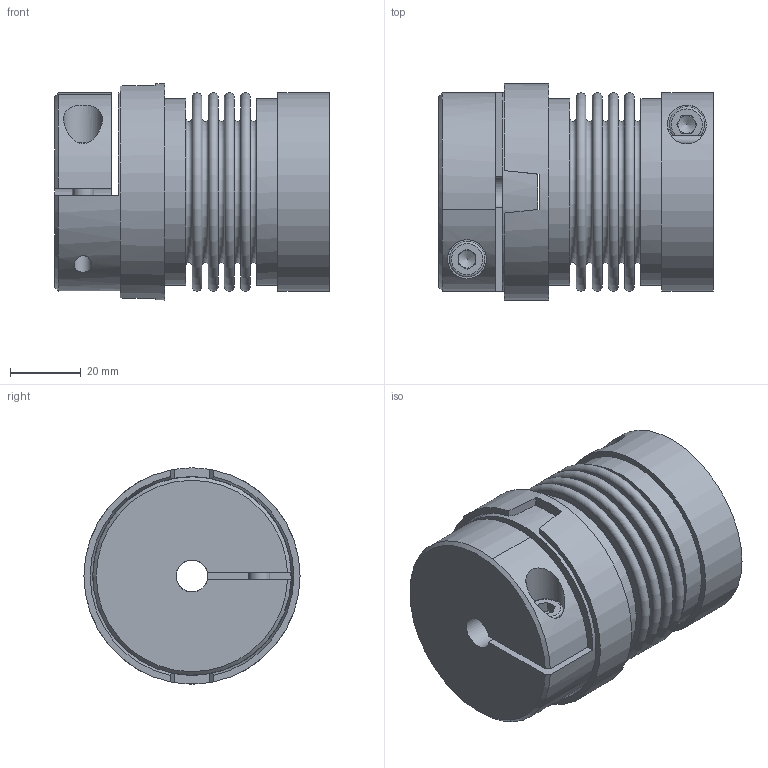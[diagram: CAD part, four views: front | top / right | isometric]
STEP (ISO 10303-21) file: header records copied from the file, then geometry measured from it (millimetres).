
FILE_DESCRIPTION( ( 'Unknown' ), '1' );
FILE_NAME( 'F:/JAKOB-STEP+IGES-Dateien/STEP-Dateien/KPP/KPP 20.stp', 'Unknown', ( 'Unknown' ), ( 'Unknown' ), 'PSStep 10.1', 'Unknown', ' ' );
FILE_SCHEMA( ( 'AUTOMOTIVE_DESIGN { 1 0 10303 214 1 1 1 1 }' ) );
Length unit declared in the file: millimetre
Products named in the file (1): kt101732
Bounding box: 77.5 x 61 x 61 mm (x, y, z)
Volume: 129246 mm3; surface area: 56925.2 mm2
Topology: 1 solids, 1 shells, 132 faces, 310 edges, 204 vertices
Faces by surface type: plane 83, cylinder 22, torus 22, cone 5
Full cylindrical faces by diameter (mm): 5 x2, 6 x2, 6.6 x2, 9 x1, 10 x2, 11 x2, 30.5 x1, 52.6 x2, 56 x1, 61 x1
Entity records: 4882 total; most frequent: CARTESIAN_POINT 938, DIRECTION 640, ORIENTED_EDGE 502, AXIS2_PLACEMENT_3D 266, EDGE_CURVE 251, EDGE_LOOP 203, VERTEX_POINT 186, FACE_OUTER_BOUND 167
